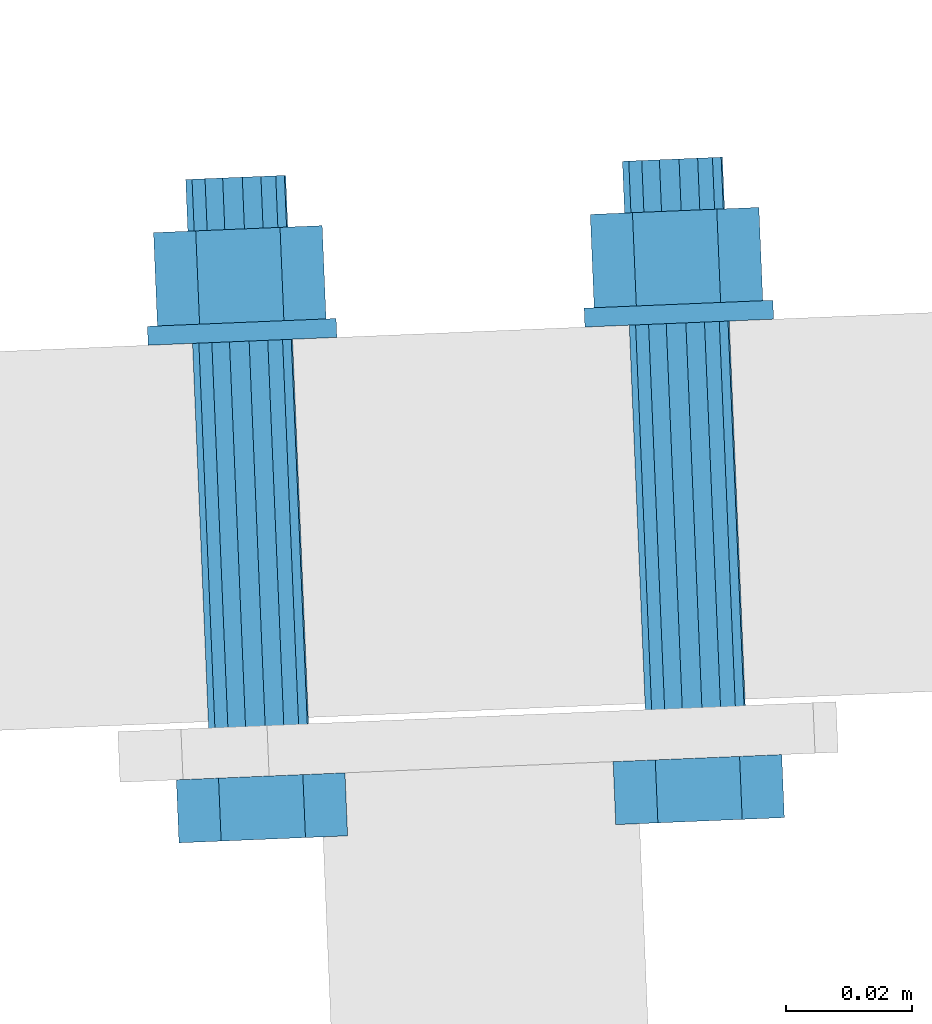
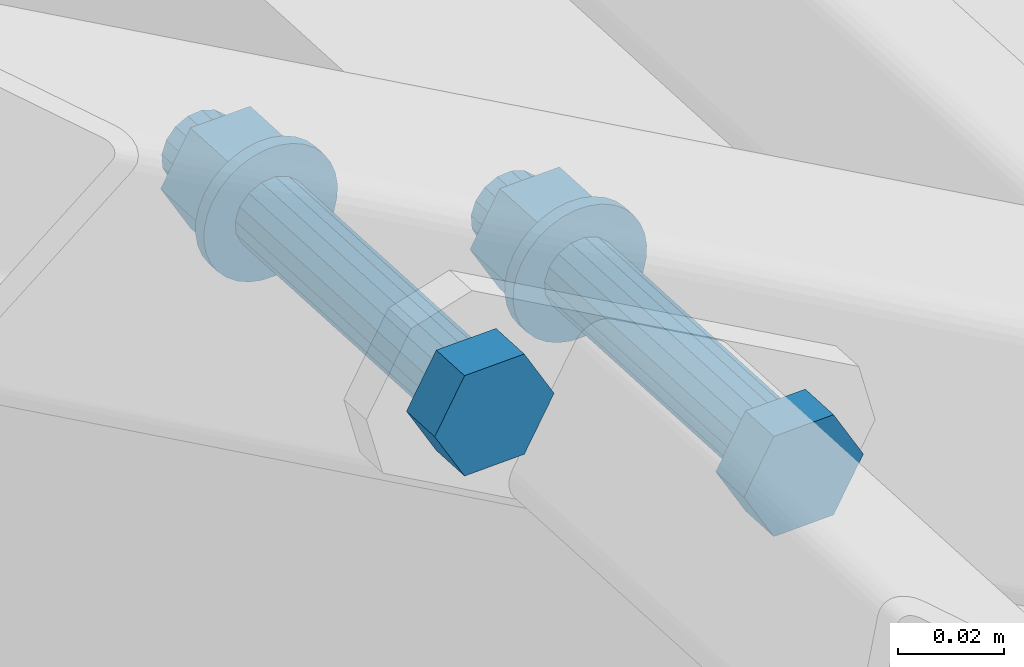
# One storey, part 101 of 288: 1 mechanical fastener.
"""IFC2X3 building model written with IfcOpenShell, lengths in millimetres."""

from ifc_helpers import new_model, entity, si_unit, converted_unit, origin_with_axes, place, context, project, spatial, faceted_brep, element, save


model = new_model("IFC2X3")

# Units and contexts
model_context = context("Model", 3, precision=1e-09, world=origin_with_axes())
ifc_project = project(units=[si_unit("LENGTHUNIT", "METRE", prefix="MILLI"), si_unit("AREAUNIT", "SQUARE_METRE"), si_unit("VOLUMEUNIT", "CUBIC_METRE"), converted_unit("PLANEANGLEUNIT", "DEGREE", entity("IfcPlaneAngleMeasure", 0.01745329), si_unit("PLANEANGLEUNIT", "RADIAN"), dimensions=[0, 0, 0, 0, 0, 0, 0])], contexts=[model_context])

# Site, building, storey
site_placement = place(None, origin_with_axes())
site = spatial("IfcSite", under=ifc_project, at=site_placement, Name="Remont ?wietlik?w nad MC w NCPP w Opolu", CompositionType="ELEMENT")
building_placement = place(site_placement, origin_with_axes())
building = spatial("IfcBuilding", under=site, at=building_placement, Name="Konstrukcja 1", CompositionType="ELEMENT")
storey_placement = place(building_placement, origin_with_axes())
storey = spatial("IfcBuildingStorey", under=building, at=storey_placement, Name="Default Storey", CompositionType="ELEMENT", Elevation=0.0)

# Mechanical fastener
mechanical_fastener_placement = place(None, origin_with_axes())
element("IfcMechanicalFastener", 1, at=mechanical_fastener_placement, inside=storey, ObjectType="-", NominalDiameter=16.0, NominalLength=95.0, context=model_context, shape_type="Brep", body=[
    faceted_brep([(1355.845204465, 1972.637451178, 357.007528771), (1355.428487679, 1982.628764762, 357.007527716), (1362.110182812, 1982.907443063, 345.424440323), (1362.526899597, 1972.91612948, 345.424441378), (1375.47356473, 1983.464801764, 345.424445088), (1375.890281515, 1973.473488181, 345.424446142), (1382.155251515, 1983.743482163, 357.007537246), (1382.5719683, 1973.75216858, 357.007538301), (1375.473556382, 1983.464803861, 368.590624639), (1375.890273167, 1973.473490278, 368.590625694), (1362.110174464, 1982.907445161, 368.590619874), (1362.52689125, 1972.916131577, 368.590620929)], [[[0, 1, 2, 3]], [[3, 2, 4, 5]], [[5, 4, 6, 7]], [[7, 6, 8, 9]], [[9, 8, 10, 11]], [[11, 10, 1, 0]], [[3, 5, 7, 9, 11, 0]], [[2, 1, 10, 8, 6, 4]]]),
    faceted_brep([(1425.067069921, 1975.524546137, 317.007553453), (1424.650353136, 1985.51585972, 317.007552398), (1431.332048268, 1985.794538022, 305.424465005), (1431.748765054, 1975.803224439, 305.42446606), (1444.695430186, 1986.351896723, 305.42446977), (1445.112146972, 1976.360583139, 305.424470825), (1451.377116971, 1986.630577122, 317.007561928), (1451.793833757, 1976.639263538, 317.007562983), (1444.695421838, 1986.35189882, 328.590649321), (1445.112138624, 1976.360585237, 328.590650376), (1431.332039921, 1985.794540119, 328.590644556), (1431.748756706, 1975.803226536, 328.590645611)], [[[0, 1, 2, 3]], [[3, 2, 4, 5]], [[5, 4, 6, 7]], [[7, 6, 8, 9]], [[9, 8, 10, 11]], [[11, 10, 1, 0]], [[3, 5, 7, 9, 11, 0]], [[2, 1, 10, 8, 6, 4]]]),
    faceted_brep([(1372.838674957, 2052.415744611, 353.007527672), (1375.714066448, 1983.474585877, 353.007534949), (1373.657743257, 1983.388820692, 350.660707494), (1370.782351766, 2052.329979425, 350.660700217), (1370.860636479, 1983.272159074, 349.280126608), (1367.985244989, 2052.213317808, 349.280119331), (1367.748580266, 1983.142361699, 349.075973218), (1364.873188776, 2052.083520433, 349.075965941), (1364.795356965, 1983.01918904, 350.079327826), (1361.919965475, 2051.960347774, 350.079320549), (1362.450568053, 1982.921393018, 352.137438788), (1359.575176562, 2051.862551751, 352.137431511), (1361.071186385, 1982.86386219, 354.936977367), (1358.195794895, 2051.805020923, 354.93697009), (1360.867210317, 1982.855355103, 358.051739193), (1357.991818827, 2051.796513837, 358.051731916), (1361.869693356, 1982.897166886, 361.007530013), (1358.994301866, 2051.838325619, 361.007522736), (1363.926016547, 1982.982932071, 363.354357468), (1361.050625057, 2051.924090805, 363.354350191), (1366.723123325, 1983.099593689, 364.734938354), (1363.847731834, 2052.040752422, 364.734931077), (1369.835179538, 1983.229391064, 364.939091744), (1366.959788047, 2052.170549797, 364.939084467), (1372.788402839, 1983.352563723, 363.935737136), (1369.913011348, 2052.293722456, 363.935729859), (1375.133191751, 1983.450359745, 361.877626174), (1372.257800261, 2052.391518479, 361.877618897), (1376.512573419, 1983.507890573, 359.078087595), (1373.637181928, 2052.449049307, 359.078080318), (1376.716549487, 1983.51639766, 355.963325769), (1373.841157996, 2052.457556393, 355.963318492)], [[[0, 1, 2, 3]], [[3, 2, 4, 5]], [[5, 4, 6, 7]], [[7, 6, 8, 9]], [[9, 8, 10, 11]], [[11, 10, 12, 13]], [[13, 12, 14, 15]], [[15, 14, 16, 17]], [[17, 16, 18, 19]], [[19, 18, 20, 21]], [[21, 20, 22, 23]], [[23, 22, 24, 25]], [[25, 24, 26, 27]], [[27, 26, 28, 29]], [[29, 28, 30, 31]], [[31, 30, 1, 0]], [[2, 1, 30, 28, 26, 24, 22, 20, 18, 16, 14, 12, 10, 8, 6, 4]], [[31, 0, 3, 5, 7, 9, 11, 13, 15, 17, 19, 21, 23, 25, 27, 29]]]),
    faceted_brep([(1442.060540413, 2055.30283957, 313.007552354), (1444.935931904, 1986.361680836, 313.007559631), (1442.879608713, 1986.27591565, 310.660732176), (1440.004217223, 2055.217074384, 310.660724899), (1440.082501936, 1986.159254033, 309.28015129), (1437.207110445, 2055.100412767, 309.280144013), (1436.970445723, 1986.029456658, 309.0759979), (1434.095054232, 2054.970615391, 309.075990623), (1434.017222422, 1985.906283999, 310.079352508), (1431.141830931, 2054.847442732, 310.079345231), (1431.672433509, 1985.808487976, 312.13746347), (1428.797042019, 2054.74964671, 312.137456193), (1430.293051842, 1985.750957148, 314.937002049), (1427.417660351, 2054.692115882, 314.936994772), (1430.089075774, 1985.742450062, 318.051763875), (1427.213684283, 2054.683608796, 318.051756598), (1431.091558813, 1985.784261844, 321.007554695), (1428.216167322, 2054.725420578, 321.007547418), (1433.147882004, 1985.87002703, 323.35438215), (1430.272490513, 2054.811185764, 323.354374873), (1435.944988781, 1985.986688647, 324.734963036), (1433.069597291, 2054.927847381, 324.734955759), (1439.057044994, 1986.116486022, 324.939116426), (1436.181653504, 2055.057644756, 324.939109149), (1442.010268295, 1986.239658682, 323.935761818), (1439.134876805, 2055.180817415, 323.935754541), (1444.355057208, 1986.337454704, 321.877650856), (1441.479665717, 2055.278613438, 321.877643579), (1445.734438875, 1986.394985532, 319.078112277), (1442.859047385, 2055.336144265, 319.078105), (1445.938414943, 1986.403492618, 315.963350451), (1443.063023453, 2055.344651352, 315.963343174)], [[[0, 1, 2, 3]], [[3, 2, 4, 5]], [[5, 4, 6, 7]], [[7, 6, 8, 9]], [[9, 8, 10, 11]], [[11, 10, 12, 13]], [[13, 12, 14, 15]], [[15, 14, 16, 17]], [[17, 16, 18, 19]], [[19, 18, 20, 21]], [[21, 20, 22, 23]], [[23, 22, 24, 25]], [[25, 24, 26, 27]], [[27, 26, 28, 29]], [[29, 28, 30, 31]], [[31, 30, 1, 0]], [[2, 1, 30, 28, 26, 24, 22, 20, 18, 16, 14, 12, 10, 8, 6, 4]], [[31, 0, 3, 5, 7, 9, 11, 13, 15, 17, 19, 21, 23, 25, 27, 29]]]),
    faceted_brep([(1378.770573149, 2055.665759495, 349.507529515), (1378.895588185, 2052.66836542, 349.507529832), (1377.184292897, 2052.596990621, 347.117341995), (1377.059277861, 2055.594384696, 347.117341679), (1375.039982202, 2052.507555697, 345.107228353), (1374.914967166, 2055.504949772, 345.107228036), (1372.545060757, 2052.403497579, 343.554436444), (1372.420045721, 2055.400891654, 343.554436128), (1369.795406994, 2052.288815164, 342.518639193), (1369.670391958, 2055.286209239, 342.518638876), (1366.896688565, 2052.167915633, 342.039641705), (1366.77167353, 2055.165309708, 342.039641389), (1363.960301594, 2052.045445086, 342.135851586), (1363.835286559, 2055.042839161, 342.135851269), (1361.099089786, 2051.926109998, 342.803571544), (1360.97407475, 2054.923504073, 342.803571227), (1358.423007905, 2051.81449635, 344.017141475), (1358.297992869, 2054.811890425, 344.017141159), (1356.034896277, 2051.714893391, 345.729924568), (1355.909881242, 2054.712287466, 345.729924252), (1354.026528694, 2051.631128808, 347.876099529), (1353.901513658, 2054.628522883, 347.876099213), (1352.475085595, 2051.566421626, 350.373190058), (1352.350070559, 2054.563815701, 350.373189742), (1351.440188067, 2051.523258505, 353.125234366), (1351.315173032, 2054.52065258, 353.125234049), (1350.961606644, 2051.503298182, 356.026472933), (1350.836591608, 2054.500692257, 356.026472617), (1351.05773294, 2051.507307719, 358.965412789), (1350.932717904, 2054.504701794, 358.965412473), (1351.724872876, 2051.535133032, 361.829112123), (1351.59985784, 2054.532527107, 361.829111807), (1352.937388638, 2051.58570481, 364.507520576), (1352.812373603, 2054.583098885, 364.50752026), (1354.648683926, 2051.657079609, 366.897708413), (1354.52366889, 2054.654473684, 366.897708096), (1356.792994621, 2051.746514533, 368.907822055), (1356.667979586, 2054.743908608, 368.907821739), (1359.287916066, 2051.850572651, 370.460613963), (1359.162901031, 2054.847966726, 370.460613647), (1362.037569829, 2051.965255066, 371.496411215), (1361.912554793, 2054.962649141, 371.496410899), (1364.936288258, 2052.086154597, 371.975408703), (1364.811273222, 2055.083548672, 371.975408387), (1367.872675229, 2052.208625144, 371.879198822), (1367.747660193, 2055.206019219, 371.879198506), (1370.733887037, 2052.327960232, 371.211478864), (1370.608872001, 2055.325354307, 371.211478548), (1373.409968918, 2052.43957388, 369.997908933), (1373.284953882, 2055.436967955, 369.997908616), (1375.798080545, 2052.539176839, 368.28512584), (1375.67306551, 2055.536570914, 368.285125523), (1377.806448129, 2052.622941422, 366.138950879), (1377.681433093, 2055.620335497, 366.138950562), (1379.357891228, 2052.687648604, 363.64186035), (1379.232876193, 2055.685042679, 363.641860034), (1380.392788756, 2052.730811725, 360.889816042), (1380.26777372, 2055.7282058, 360.889815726), (1380.871370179, 2052.750772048, 357.988577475), (1380.746355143, 2055.748166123, 357.988577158), (1380.775243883, 2052.746762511, 355.049637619), (1380.650228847, 2055.744156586, 355.049637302), (1380.108103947, 2052.718937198, 352.185938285), (1379.983088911, 2055.716331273, 352.185937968)], [[[0, 1, 2, 3]], [[3, 2, 4, 5]], [[5, 4, 6, 7]], [[7, 6, 8, 9]], [[9, 8, 10, 11]], [[11, 10, 12, 13]], [[13, 12, 14, 15]], [[15, 14, 16, 17]], [[17, 16, 18, 19]], [[19, 18, 20, 21]], [[21, 20, 22, 23]], [[23, 22, 24, 25]], [[25, 24, 26, 27]], [[27, 26, 28, 29]], [[29, 28, 30, 31]], [[31, 30, 32, 33]], [[33, 32, 34, 35]], [[35, 34, 36, 37]], [[37, 36, 38, 39]], [[39, 38, 40, 41]], [[41, 40, 42, 43]], [[43, 42, 44, 45]], [[45, 44, 46, 47]], [[47, 46, 48, 49]], [[49, 48, 50, 51]], [[51, 50, 52, 53]], [[53, 52, 54, 55]], [[55, 54, 56, 57]], [[57, 56, 58, 59]], [[59, 58, 60, 61]], [[61, 60, 62, 63]], [[63, 62, 1, 0]], [[2, 1, 62, 60, 58, 56, 54, 52, 50, 48, 46, 44, 42, 40, 38, 36, 34, 32, 30, 28, 26, 24, 22, 20, 18, 16, 14, 12, 10, 8, 6, 4]], [[63, 0, 3, 5, 7, 9, 11, 13, 15, 17, 19, 21, 23, 25, 27, 29, 31, 33, 35, 37, 39, 41, 43, 45, 47, 49, 51, 53, 55, 57, 59, 61]]]),
    faceted_brep([(1447.992438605, 2058.552854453, 309.507554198), (1448.117453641, 2055.555460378, 309.507554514), (1446.406158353, 2055.48408558, 307.117366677), (1446.281143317, 2058.481479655, 307.117366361), (1444.261847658, 2055.394650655, 305.107253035), (1444.136832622, 2058.39204473, 305.107252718), (1441.766926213, 2055.290592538, 303.554461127), (1441.641911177, 2058.287986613, 303.55446081), (1439.01727245, 2055.175910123, 302.518663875), (1438.892257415, 2058.173304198, 302.518663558), (1436.118554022, 2055.055010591, 302.039666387), (1435.993538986, 2058.052404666, 302.039666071), (1433.182167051, 2054.932540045, 302.135876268), (1433.057152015, 2057.92993412, 302.135875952), (1430.320955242, 2054.813204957, 302.803596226), (1430.195940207, 2057.810599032, 302.80359591), (1427.644873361, 2054.701591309, 304.017166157), (1427.519858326, 2057.698985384, 304.017165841), (1425.256761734, 2054.60198835, 305.72994925), (1425.131746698, 2057.599382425, 305.729948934), (1423.24839415, 2054.518223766, 307.876124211), (1423.123379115, 2057.515617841, 307.876123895), (1421.696951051, 2054.453516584, 310.37321474), (1421.571936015, 2057.450910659, 310.373214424), (1420.662053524, 2054.410353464, 313.125259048), (1420.537038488, 2057.407747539, 313.125258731), (1420.1834721, 2054.39039314, 316.026497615), (1420.058457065, 2057.387787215, 316.026497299), (1420.279598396, 2054.394402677, 318.965437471), (1420.154583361, 2057.391796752, 318.965437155), (1420.946738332, 2054.422227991, 321.829136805), (1420.821723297, 2057.419622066, 321.829136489), (1422.159254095, 2054.472799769, 324.507545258), (1422.034239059, 2057.470193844, 324.507544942), (1423.870549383, 2054.544174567, 326.897733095), (1423.745534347, 2057.541568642, 326.897732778), (1426.014860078, 2054.633609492, 328.907846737), (1425.889845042, 2057.631003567, 328.907846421), (1428.509781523, 2054.73766761, 330.460638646), (1428.384766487, 2057.735061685, 330.460638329), (1431.259435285, 2054.852350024, 331.496435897), (1431.13442025, 2057.849744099, 331.496435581), (1434.158153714, 2054.973249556, 331.975433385), (1434.033138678, 2057.970643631, 331.975433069), (1437.094540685, 2055.095720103, 331.879223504), (1436.969525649, 2058.093114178, 331.879223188), (1439.955752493, 2055.215055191, 331.211503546), (1439.830737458, 2058.212449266, 331.21150323), (1442.631834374, 2055.326668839, 329.997933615), (1442.506819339, 2058.324062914, 329.997933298), (1445.019946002, 2055.426271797, 328.285150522), (1444.894930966, 2058.423665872, 328.285150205), (1447.028313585, 2055.510036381, 326.138975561), (1446.90329855, 2058.507430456, 326.138975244), (1448.579756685, 2055.574743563, 323.641885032), (1448.454741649, 2058.572137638, 323.641884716), (1449.614654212, 2055.617906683, 320.889840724), (1449.489639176, 2058.615300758, 320.889840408), (1450.093235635, 2055.637867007, 317.988602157), (1449.9682206, 2058.635261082, 317.988601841), (1449.997109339, 2055.63385747, 315.049662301), (1449.872094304, 2058.631251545, 315.049661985), (1449.329969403, 2055.606032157, 312.185962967), (1449.204954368, 2058.603426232, 312.18596265)], [[[0, 1, 2, 3]], [[3, 2, 4, 5]], [[5, 4, 6, 7]], [[7, 6, 8, 9]], [[9, 8, 10, 11]], [[11, 10, 12, 13]], [[13, 12, 14, 15]], [[15, 14, 16, 17]], [[17, 16, 18, 19]], [[19, 18, 20, 21]], [[21, 20, 22, 23]], [[23, 22, 24, 25]], [[25, 24, 26, 27]], [[27, 26, 28, 29]], [[29, 28, 30, 31]], [[31, 30, 32, 33]], [[33, 32, 34, 35]], [[35, 34, 36, 37]], [[37, 36, 38, 39]], [[39, 38, 40, 41]], [[41, 40, 42, 43]], [[43, 42, 44, 45]], [[45, 44, 46, 47]], [[47, 46, 48, 49]], [[49, 48, 50, 51]], [[51, 50, 52, 53]], [[53, 52, 54, 55]], [[55, 54, 56, 57]], [[57, 56, 58, 59]], [[59, 58, 60, 61]], [[61, 60, 62, 63]], [[63, 62, 1, 0]], [[2, 1, 62, 60, 58, 56, 54, 52, 50, 48, 46, 44, 42, 40, 38, 36, 34, 32, 30, 28, 26, 24, 22, 20, 18, 16, 14, 12, 10, 8, 6, 4]], [[63, 0, 3, 5, 7, 9, 11, 13, 15, 17, 19, 21, 23, 25, 27, 29, 31, 33, 35, 37, 39, 41, 43, 45, 47, 49, 51, 53, 55, 57, 59, 61]]]),
    faceted_brep([(1352.428091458, 2054.567070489, 357.007520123), (1351.811350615, 2069.354214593, 357.007518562), (1358.493045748, 2069.632892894, 345.424431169), (1359.109786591, 2054.845748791, 345.42443273), (1371.856427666, 2070.190251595, 345.424435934), (1372.473168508, 2055.403107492, 345.424437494), (1378.538114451, 2070.468931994, 357.007528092), (1379.154855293, 2055.681787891, 357.007529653), (1371.856419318, 2070.190253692, 368.590615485), (1372.473160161, 2055.403109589, 368.590617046), (1358.4930374, 2069.632894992, 368.59061072), (1359.109778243, 2054.845750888, 368.590612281)], [[[0, 1, 2, 3]], [[3, 2, 4, 5]], [[5, 4, 6, 7]], [[7, 6, 8, 9]], [[9, 8, 10, 11]], [[11, 10, 1, 0]], [[3, 5, 7, 9, 11, 0]], [[2, 1, 10, 8, 6, 4]]]),
    faceted_brep([(1421.649956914, 2057.454165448, 317.007544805), (1421.033216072, 2072.241309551, 317.007543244), (1427.714911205, 2072.519987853, 305.424455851), (1428.331652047, 2057.73284375, 305.424457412), (1441.078293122, 2073.077346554, 305.424460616), (1441.695033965, 2058.29020245, 305.424462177), (1447.759979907, 2073.356026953, 317.007552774), (1448.37672075, 2058.568882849, 317.007554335), (1441.078284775, 2073.077348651, 328.590640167), (1441.695025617, 2058.290204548, 328.590641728), (1427.714902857, 2072.51998995, 328.590635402), (1428.331643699, 2057.732845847, 328.590636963)], [[[0, 1, 2, 3]], [[3, 2, 4, 5]], [[5, 4, 6, 7]], [[7, 6, 8, 9]], [[9, 8, 10, 11]], [[11, 10, 1, 0]], [[3, 5, 7, 9, 11, 0]], [[2, 1, 10, 8, 6, 4]]]),
    faceted_brep([(1371.75524668, 2078.392312, 353.00752493), (1372.096908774, 2070.20052987, 353.007525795), (1370.040585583, 2070.114764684, 350.660698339), (1369.698923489, 2078.306546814, 350.660697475), (1367.243478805, 2069.998103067, 349.280117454), (1366.901816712, 2078.189885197, 349.280116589), (1364.131422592, 2069.868305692, 349.075964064), (1363.789760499, 2078.060087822, 349.075963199), (1361.178199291, 2069.745133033, 350.079318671), (1360.836537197, 2077.936915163, 350.079317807), (1358.833410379, 2069.64733701, 352.137429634), (1358.491748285, 2077.83911914, 352.137428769), (1357.454028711, 2069.589806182, 354.936968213), (1357.112366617, 2077.781588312, 354.936967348), (1357.250052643, 2069.581299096, 358.051730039), (1356.90839055, 2077.773081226, 358.051729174), (1358.252535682, 2069.623110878, 361.007520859), (1357.910873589, 2077.814893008, 361.007519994), (1360.308858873, 2069.708876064, 363.354348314), (1359.96719678, 2077.900658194, 363.354347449), (1363.105965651, 2069.825537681, 364.734929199), (1362.764303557, 2078.017319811, 364.734928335), (1366.218021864, 2069.955335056, 364.93908259), (1365.87635977, 2078.147117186, 364.939081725), (1369.171245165, 2070.078507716, 363.935727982), (1368.829583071, 2078.270289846, 363.935727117), (1371.516034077, 2070.176303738, 361.87761702), (1371.174371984, 2078.368085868, 361.877616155), (1372.895415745, 2070.233834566, 359.07807844), (1372.553753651, 2078.425616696, 359.078077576), (1373.099391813, 2070.242341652, 355.963316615), (1372.757729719, 2078.434123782, 355.96331575)], [[[0, 1, 2, 3]], [[3, 2, 4, 5]], [[5, 4, 6, 7]], [[7, 6, 8, 9]], [[9, 8, 10, 11]], [[11, 10, 12, 13]], [[13, 12, 14, 15]], [[15, 14, 16, 17]], [[17, 16, 18, 19]], [[19, 18, 20, 21]], [[21, 20, 22, 23]], [[23, 22, 24, 25]], [[25, 24, 26, 27]], [[27, 26, 28, 29]], [[29, 28, 30, 31]], [[31, 30, 1, 0]], [[2, 1, 30, 28, 26, 24, 22, 20, 18, 16, 14, 12, 10, 8, 6, 4]], [[31, 0, 3, 5, 7, 9, 11, 13, 15, 17, 19, 21, 23, 25, 27, 29]]]),
    faceted_brep([(1440.977112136, 2081.279406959, 313.007549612), (1441.31877423, 2073.087624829, 313.007550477), (1439.262451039, 2073.001859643, 310.660723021), (1438.920788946, 2081.193641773, 310.660722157), (1436.465344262, 2072.885198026, 309.280142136), (1436.123682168, 2081.076980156, 309.280141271), (1433.353288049, 2072.755400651, 309.075988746), (1433.011625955, 2080.947182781, 309.075987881), (1430.400064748, 2072.632227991, 310.079343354), (1430.058402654, 2080.824010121, 310.079342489), (1428.055275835, 2072.534431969, 312.137454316), (1427.713613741, 2080.726214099, 312.137453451), (1426.675894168, 2072.476901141, 314.936992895), (1426.334232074, 2080.668683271, 314.93699203), (1426.4719181, 2072.468394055, 318.051754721), (1426.130256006, 2080.660176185, 318.051753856), (1427.474401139, 2072.510205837, 321.007545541), (1427.132739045, 2080.701987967, 321.007544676), (1429.53072433, 2072.595971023, 323.354372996), (1429.189062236, 2080.787753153, 323.354372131), (1432.327831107, 2072.71263264, 324.734953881), (1431.986169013, 2080.90441477, 324.734953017), (1435.43988732, 2072.842430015, 324.939107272), (1435.098225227, 2081.034212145, 324.939106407), (1438.393110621, 2072.965602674, 323.935752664), (1438.051448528, 2081.157384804, 323.935751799), (1440.737899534, 2073.063398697, 321.877641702), (1440.39623744, 2081.255180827, 321.877640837), (1442.117281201, 2073.120929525, 319.078103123), (1441.775619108, 2081.312711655, 319.078102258), (1442.321257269, 2073.129436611, 315.963341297), (1441.979595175, 2081.321218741, 315.963340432)], [[[0, 1, 2, 3]], [[3, 2, 4, 5]], [[5, 4, 6, 7]], [[7, 6, 8, 9]], [[9, 8, 10, 11]], [[11, 10, 12, 13]], [[13, 12, 14, 15]], [[15, 14, 16, 17]], [[17, 16, 18, 19]], [[19, 18, 20, 21]], [[21, 20, 22, 23]], [[23, 22, 24, 25]], [[25, 24, 26, 27]], [[27, 26, 28, 29]], [[29, 28, 30, 31]], [[31, 30, 1, 0]], [[2, 1, 30, 28, 26, 24, 22, 20, 18, 16, 14, 12, 10, 8, 6, 4]], [[31, 0, 3, 5, 7, 9, 11, 13, 15, 17, 19, 21, 23, 25, 27, 29]]]),
])

save(model, "model.ifc")
